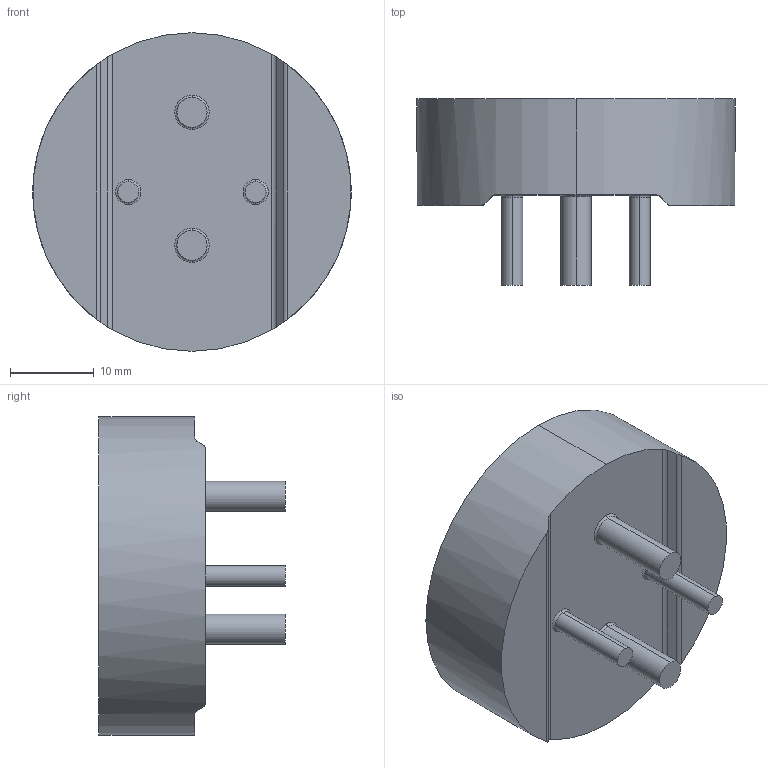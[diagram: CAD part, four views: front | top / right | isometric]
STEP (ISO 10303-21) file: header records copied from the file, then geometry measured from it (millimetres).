
FILE_DESCRIPTION (( 'STEP AP214' ), '1' );
FILE_NAME ('IHTH-1500MZ-5A 0.47uH.STEP', '2025-03-14T19:45:50', ( '' ), ( '' ), 'SwSTEP 2.0', 'SolidWorks 2024', '' );
FILE_SCHEMA (( 'AUTOMOTIVE_DESIGN' ));
Length unit declared in the file: inch
Products named in the file (1): IHTH-1500MZ-5A 0.47uH
Bounding box: 38.1 x 22.28 x 38.1 mm (x, y, z)
Volume: 13903.1 mm3; surface area: 4190.9 mm2
Topology: 1 solids, 1 shells, 220 faces, 562 edges, 372 vertices
Faces by surface type: plane 144, bspline 50, cylinder 18, torus 8
Entity records: 9797 total; most frequent: CARTESIAN_POINT 4753, ORIENTED_EDGE 1124, DIRECTION 840, EDGE_CURVE 562, LINE 402, VECTOR 402, VERTEX_POINT 372, EDGE_LOOP 248
